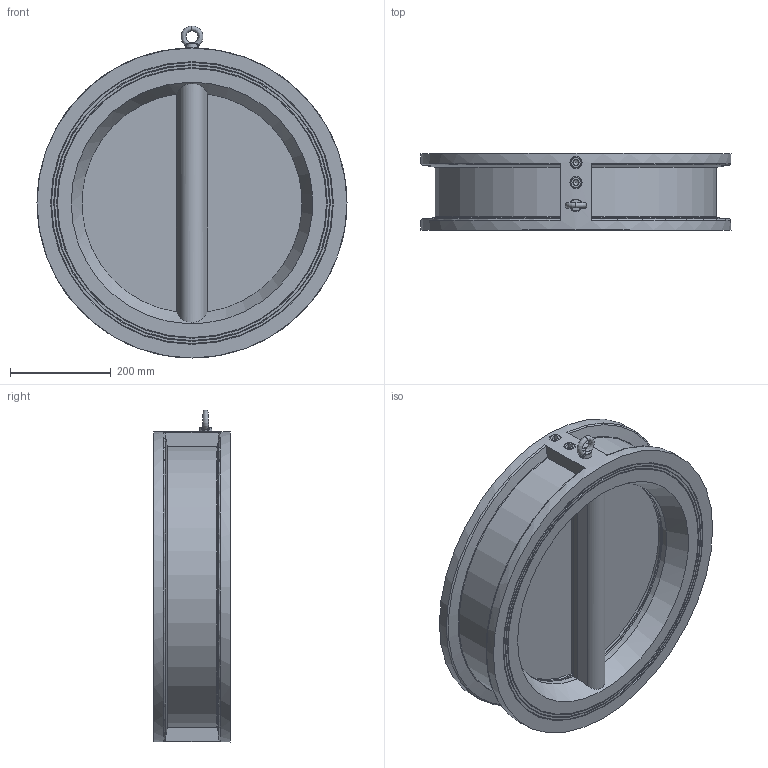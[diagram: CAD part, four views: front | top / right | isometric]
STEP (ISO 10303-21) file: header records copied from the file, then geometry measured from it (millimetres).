
FILE_DESCRIPTION (( 'STEP AP203' ), '1' );
FILE_NAME ('5306 DN500 ×°Åä PN16.STEP', '2025-07-22T03:41:30', ( '' ), ( '' ), 'SwSTEP 2.0', 'SolidWorks 2018', '' );
FILE_SCHEMA (( 'CONFIG_CONTROL_DESIGN' ));
Length unit declared in the file: millimetre
Products named in the file (7): 5306 DN500 蚾饜 PN16; 5306 DN500 概粣; GB╱T 825-1988[吊环螺钉M10]_M10; 5306 DN500 概极; 5306 DN500 概啣; GB╱T 77-2007[内六角平端紧定螺钉M24×25]_M24×25; 500蝶
Assembly tree (11 placements, depth 2):
  5306 DN500 蚾饜 PN16
    5306 DN500 概极
    500蝶
    5306 DN500 概粣  x2
    5306 DN500 概啣  x2
    GB╱T 77-2007[内六角平端紧定螺钉M24×25]_M24×25  x4
    GB╱T 825-1988[吊环螺钉M10]_M10
Bounding box: 616 x 152 x 659.6 mm (x, y, z)
Volume: 17216677.6 mm3; surface area: 1614547.3 mm2
Topology: 12 solids, 12 shells, 239 faces, 554 edges, 341 vertices
Faces by surface type: plane 117, cylinder 56, cone 39, bspline 16, torus 11
Full cylindrical faces by diameter (mm): 8.5 x1, 10 x1, 16 x1, 20 x6, 24 x4, 25 x4, 505 x1, 616 x1
Entity records: 7809 total; most frequent: CARTESIAN_POINT 3728, DIRECTION 658, ORIENTED_EDGE 612, EDGE_CURVE 306, AXIS2_PLACEMENT_3D 276, EDGE_LOOP 220, VERTEX_POINT 212, FACE_OUTER_BOUND 169
